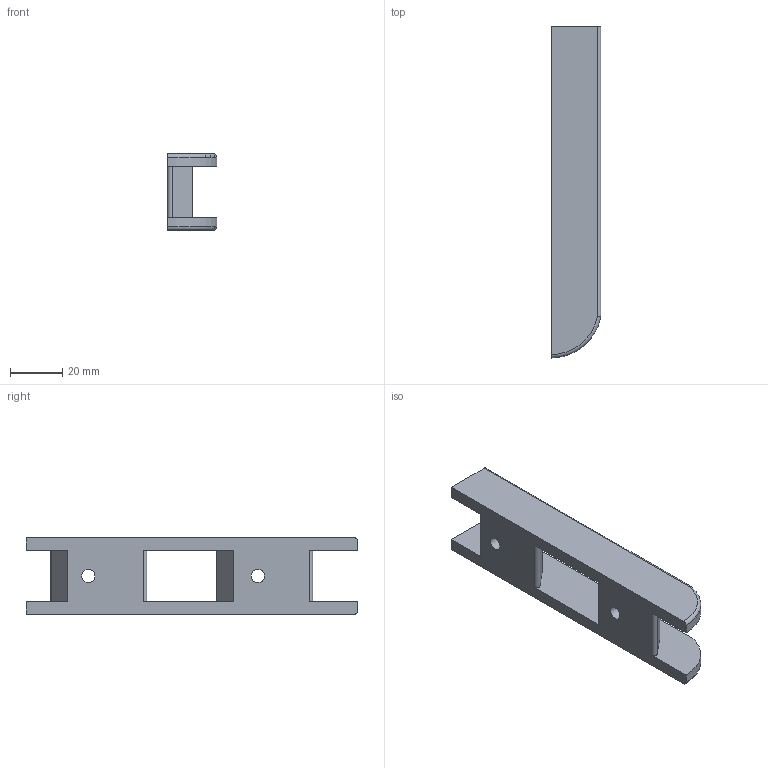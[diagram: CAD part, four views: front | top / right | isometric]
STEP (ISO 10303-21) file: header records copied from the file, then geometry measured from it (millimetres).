
FILE_DESCRIPTION(/* description */ ('STEP AP242','CAx-IF Rec.Pracs.---Representation and Presentation of Product Manufacturing Information (PMI)---4.0---2014-10-13','CAx-IF Rec.Pracs.---3D Tessellated Geometry---0.4---2014-09-14','2;1'),/* implementation_level */ '2;1');
FILE_NAME(/* name */ '677e1262248f357686528d08',/* time_stamp */ '2025-01-08T05:51:30Z',/* author */ (''),/* organization */ (''),/* preprocessor_version */ 'ST-DEVELOPER v20',/* originating_system */ 'ONSHAPE BY PTC INC, 1.191',/* authorisation */ ' ');
FILE_SCHEMA (('AP242_MANAGED_MODEL_BASED_3D_ENGINEERING_MIM_LF { 1 0 10303 442 1 1 4 }'));
Length unit declared in the file: metre
Products named in the file (1): Wall Bracket-5
Bounding box: 19.05 x 127 x 29.21 mm (x, y, z)
Volume: 32982.6 mm3; surface area: 14316.1 mm2
Topology: 1 solids, 1 shells, 33 faces, 88 edges, 58 vertices
Faces by surface type: plane 17, cylinder 12, torus 2, cone 2
Full cylindrical faces by diameter (mm): 5.08 x2, 12.7 x2
Entity records: 1024 total; most frequent: CARTESIAN_POINT 178, DIRECTION 174, ORIENTED_EDGE 160, EDGE_CURVE 80, AXIS2_PLACEMENT_3D 62, VERTEX_POINT 56, LINE 50, VECTOR 50
